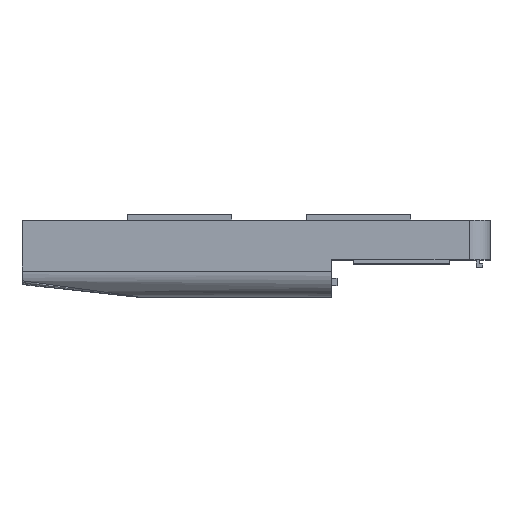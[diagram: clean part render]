
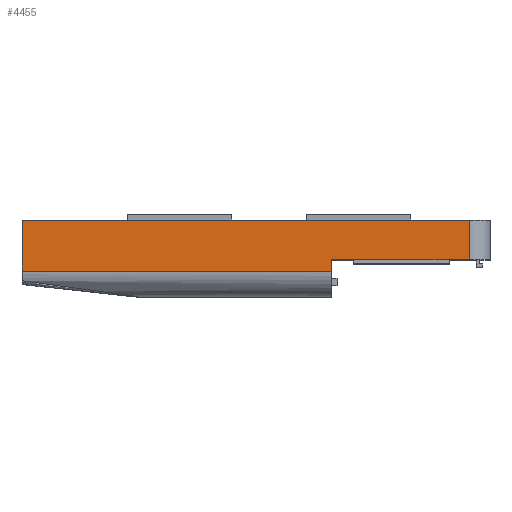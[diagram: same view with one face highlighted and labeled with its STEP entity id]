
A CAD part, top view. The second image highlights one B-rep face of the part: STEP entity #4455.
In plain terms, the highlighted planar face has unit normal (0, 0, 1).
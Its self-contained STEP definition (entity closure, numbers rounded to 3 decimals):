
#5 = CARTESIAN_POINT ( 'NONE',  ( 14.5, -9.8, 30.35 ) ) ;
#16 = DIRECTION ( 'NONE',  ( 0., 1., 0. ) ) ;
#119 = CARTESIAN_POINT ( 'NONE',  ( 41., -14.8, 30.35 ) ) ;
#206 = VECTOR ( 'NONE', #4472, 1000. ) ;
#240 = CARTESIAN_POINT ( 'NONE',  ( -45., 0., 30.35 ) ) ;
#378 = DIRECTION ( 'NONE',  ( 1., 0., 0. ) ) ;
#445 = VECTOR ( 'NONE', #2442, 1000. ) ;
#496 = DIRECTION ( 'NONE',  ( 0., 1., 0. ) ) ;
#535 = EDGE_LOOP ( 'NONE', ( #2018, #2747, #2543, #2157, #1296, #2836 ) ) ;
#564 = EDGE_CURVE ( 'NONE', #3645, #2953, #1787, .T. ) ;
#616 = DIRECTION ( 'NONE',  ( 1., 0., 0. ) ) ;
#877 = VECTOR ( 'NONE', #16, 1000. ) ;
#1020 = DIRECTION ( 'NONE',  ( 1., 0., 0. ) ) ;
#1060 = LINE ( 'NONE', #119, #4839 ) ;
#1099 = EDGE_CURVE ( 'NONE', #1619, #1722, #1060, .T. ) ;
#1220 = LINE ( 'NONE', #240, #4342 ) ;
#1228 = EDGE_CURVE ( 'NONE', #1619, #3266, #2401, .T. ) ;
#1296 = ORIENTED_EDGE ( 'NONE', *, *, #3772, .T. ) ;
#1433 = CARTESIAN_POINT ( 'NONE',  ( 41., -7.6, 30.35 ) ) ;
#1529 = EDGE_CURVE ( 'NONE', #2953, #1722, #1220, .T. ) ;
#1599 = LINE ( 'NONE', #5, #3562 ) ;
#1619 = VERTEX_POINT ( 'NONE', #1433 ) ;
#1722 = VERTEX_POINT ( 'NONE', #3865 ) ;
#1786 = CARTESIAN_POINT ( 'NONE',  ( -45., 0., 30.35 ) ) ;
#1787 = LINE ( 'NONE', #2341, #877 ) ;
#2018 = ORIENTED_EDGE ( 'NONE', *, *, #1228, .F. ) ;
#2157 = ORIENTED_EDGE ( 'NONE', *, *, #564, .F. ) ;
#2168 = PLANE ( 'NONE',  #3144 ) ;
#2341 = CARTESIAN_POINT ( 'NONE',  ( -45., -14.8, 30.35 ) ) ;
#2401 = LINE ( 'NONE', #4085, #206 ) ;
#2409 = VERTEX_POINT ( 'NONE', #2572 ) ;
#2442 = DIRECTION ( 'NONE',  ( 0., -1., 0. ) ) ;
#2543 = ORIENTED_EDGE ( 'NONE', *, *, #1529, .F. ) ;
#2557 = CARTESIAN_POINT ( 'NONE',  ( -45., -14.8, 30.35 ) ) ;
#2572 = CARTESIAN_POINT ( 'NONE',  ( 14.5, -9.8, 30.35 ) ) ;
#2647 = CARTESIAN_POINT ( 'NONE',  ( -45., -9.8, 30.35 ) ) ;
#2747 = ORIENTED_EDGE ( 'NONE', *, *, #1099, .T. ) ;
#2836 = ORIENTED_EDGE ( 'NONE', *, *, #4988, .F. ) ;
#2953 = VERTEX_POINT ( 'NONE', #1786 ) ;
#2956 = DIRECTION ( 'NONE',  ( 0., 0., 1. ) ) ;
#3144 = AXIS2_PLACEMENT_3D ( 'NONE', #2557, #2956, #616 ) ;
#3266 = VERTEX_POINT ( 'NONE', #4366 ) ;
#3437 = LINE ( 'NONE', #4389, #445 ) ;
#3562 = VECTOR ( 'NONE', #378, 1000. ) ;
#3645 = VERTEX_POINT ( 'NONE', #2647 ) ;
#3679 = FACE_OUTER_BOUND ( 'NONE', #535, .T. ) ;
#3772 = EDGE_CURVE ( 'NONE', #3645, #2409, #1599, .T. ) ;
#3865 = CARTESIAN_POINT ( 'NONE',  ( 41., 0., 30.35 ) ) ;
#4085 = CARTESIAN_POINT ( 'NONE',  ( 14.5, -7.6, 30.35 ) ) ;
#4342 = VECTOR ( 'NONE', #1020, 1000. ) ;
#4366 = CARTESIAN_POINT ( 'NONE',  ( 14.5, -7.6, 30.35 ) ) ;
#4389 = CARTESIAN_POINT ( 'NONE',  ( 14.5, -7.6, 30.35 ) ) ;
#4455 = ADVANCED_FACE ( 'NONE', ( #3679 ), #2168, .T. ) ;
#4472 = DIRECTION ( 'NONE',  ( -1., 0., 0. ) ) ;
#4839 = VECTOR ( 'NONE', #496, 1000. ) ;
#4988 = EDGE_CURVE ( 'NONE', #3266, #2409, #3437, .T. ) ;
